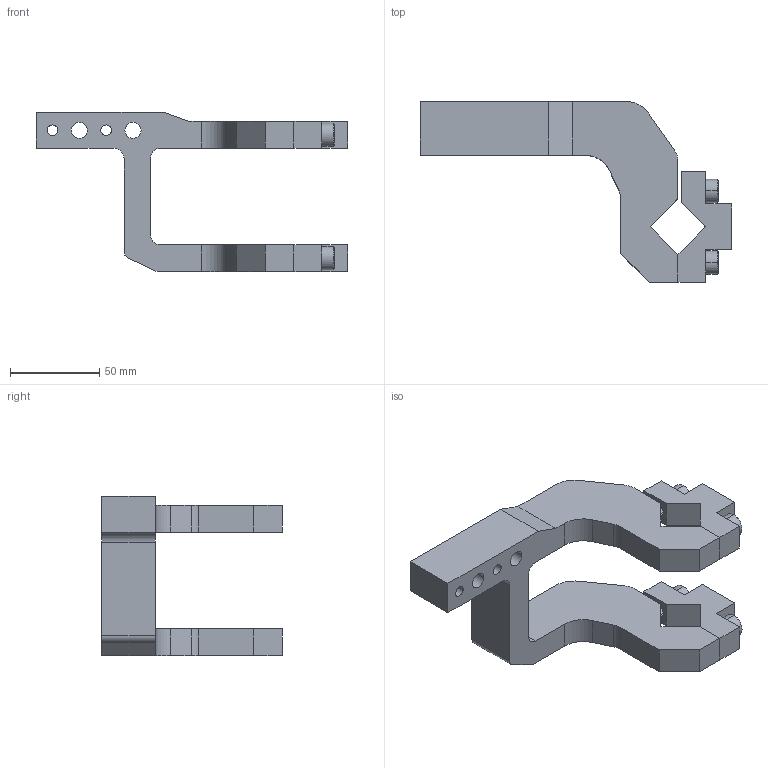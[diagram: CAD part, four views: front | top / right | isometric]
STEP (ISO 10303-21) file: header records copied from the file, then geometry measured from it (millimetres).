
FILE_DESCRIPTION((''),'2;1');
FILE_NAME('S:\Matthew\Step Files\XM Clamp Arms\XJ63-CAL-02.stp','2006-06-28T08:16:40',('Matthew'),(''),'Autodesk Inventor 8','Autodesk Inventor 8','');
FILE_SCHEMA(('AUTOMOTIVE_DESIGN { 1 0 10303 214 1 1 1 1 }'));
Length unit declared in the file: millimetre
Products named in the file (4): XJ63-CAL-02; XJ63-CAL-021; XJ63-CAL-022; XJ63-CAL-023
Assembly tree (3 placements, depth 2):
  XJ63-CAL-02
    XJ63-CAL-021
    XJ63-CAL-022
    XJ63-CAL-023
Bounding box: 174 x 101 x 89 mm (x, y, z)
Volume: 216027.4 mm3; surface area: 55397 mm2
Topology: 3 solids, 3 shells, 155 faces, 395 edges, 254 vertices
Faces by surface type: plane 62, bspline 53, cylinder 24, cone 16
Entity records: 5010 total; most frequent: CARTESIAN_POINT 1270, ORIENTED_EDGE 774, DIRECTION 705, EDGE_CURVE 387, VECTOR 287, LINE 287, VERTEX_POINT 254, AXIS2_PLACEMENT_3D 209
